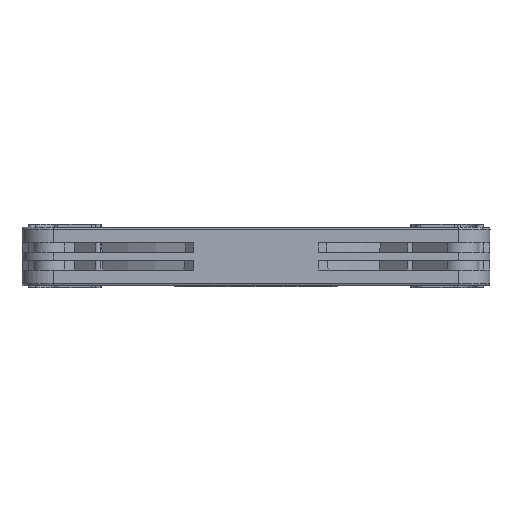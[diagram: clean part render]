
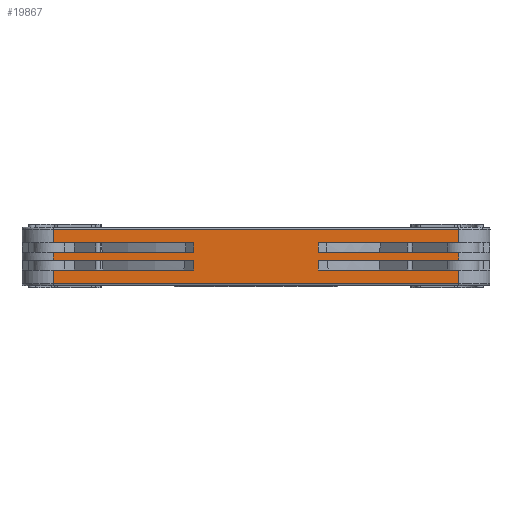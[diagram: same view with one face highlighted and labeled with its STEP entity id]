
A CAD part, left-side view. The second image highlights one B-rep face of the part: STEP entity #19867.
In plain terms, the highlighted planar face has unit normal (-1, 0, 0).
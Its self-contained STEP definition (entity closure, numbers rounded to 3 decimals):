
#4461=ORIENTED_EDGE('',*,*,#9555,.F.);
#4462=ORIENTED_EDGE('',*,*,#9547,.F.);
#4463=ORIENTED_EDGE('',*,*,#9560,.F.);
#4464=ORIENTED_EDGE('',*,*,#9563,.F.);
#4465=ORIENTED_EDGE('',*,*,#9565,.F.);
#4466=ORIENTED_EDGE('',*,*,#9544,.F.);
#4467=ORIENTED_EDGE('',*,*,#9570,.F.);
#4468=ORIENTED_EDGE('',*,*,#10012,.T.);
#4469=ORIENTED_EDGE('',*,*,#10013,.T.);
#4470=ORIENTED_EDGE('',*,*,#10010,.F.);
#4471=ORIENTED_EDGE('',*,*,#10014,.F.);
#4472=ORIENTED_EDGE('',*,*,#9676,.F.);
#4473=ORIENTED_EDGE('',*,*,#9651,.F.);
#4474=ORIENTED_EDGE('',*,*,#9543,.F.);
#4475=ORIENTED_EDGE('',*,*,#9658,.F.);
#4476=ORIENTED_EDGE('',*,*,#9538,.F.);
#4477=ORIENTED_EDGE('',*,*,#9669,.F.);
#4478=ORIENTED_EDGE('',*,*,#9537,.F.);
#4479=ORIENTED_EDGE('',*,*,#9773,.F.);
#4480=ORIENTED_EDGE('',*,*,#9551,.F.);
#9537=EDGE_CURVE('',#12508,#12507,#14134,.T.);
#9538=EDGE_CURVE('',#12509,#12510,#14135,.T.);
#9543=EDGE_CURVE('',#12512,#12511,#14137,.T.);
#9544=EDGE_CURVE('',#12513,#12514,#14138,.T.);
#9547=EDGE_CURVE('',#12515,#12516,#14140,.T.);
#9551=EDGE_CURVE('',#12517,#12518,#14142,.T.);
#9555=EDGE_CURVE('',#12516,#12517,#14143,.T.);
#9560=EDGE_CURVE('',#12519,#12515,#14146,.T.);
#9563=EDGE_CURVE('',#12520,#12519,#14147,.T.);
#9565=EDGE_CURVE('',#12514,#12520,#14148,.T.);
#9570=EDGE_CURVE('',#12521,#12513,#14150,.T.);
#9651=EDGE_CURVE('',#12511,#12569,#14195,.T.);
#9658=EDGE_CURVE('',#12510,#12512,#14199,.T.);
#9669=EDGE_CURVE('',#12507,#12509,#14206,.T.);
#9676=EDGE_CURVE('',#12569,#12579,#14209,.T.);
#9773=EDGE_CURVE('',#12518,#12508,#14250,.T.);
#10010=EDGE_CURVE('',#12774,#12775,#14372,.T.);
#10012=EDGE_CURVE('',#12521,#12776,#14373,.T.);
#10013=EDGE_CURVE('',#12776,#12775,#14374,.T.);
#10014=EDGE_CURVE('',#12579,#12774,#14375,.T.);
#12507=VERTEX_POINT('',#33537);
#12508=VERTEX_POINT('',#33539);
#12509=VERTEX_POINT('',#33543);
#12510=VERTEX_POINT('',#33544);
#12511=VERTEX_POINT('',#33556);
#12512=VERTEX_POINT('',#33564);
#12513=VERTEX_POINT('',#33568);
#12514=VERTEX_POINT('',#33569);
#12515=VERTEX_POINT('',#33577);
#12516=VERTEX_POINT('',#33578);
#12517=VERTEX_POINT('',#33590);
#12518=VERTEX_POINT('',#33592);
#12519=VERTEX_POINT('',#33626);
#12520=VERTEX_POINT('',#33639);
#12521=VERTEX_POINT('',#33663);
#12569=VERTEX_POINT('',#33935);
#12579=VERTEX_POINT('',#34012);
#12774=VERTEX_POINT('',#35149);
#12775=VERTEX_POINT('',#35151);
#12776=VERTEX_POINT('',#35155);
#14134=LINE('',#33540,#15469);
#14135=LINE('',#33542,#15470);
#14137=LINE('',#33565,#15472);
#14138=LINE('',#33567,#15473);
#14140=LINE('',#33576,#15475);
#14142=LINE('',#33591,#15477);
#14143=LINE('',#33607,#15478);
#14146=LINE('',#33627,#15481);
#14147=LINE('',#33640,#15482);
#14148=LINE('',#33647,#15483);
#14150=LINE('',#33664,#15485);
#14195=LINE('',#33934,#15530);
#14199=LINE('',#33958,#15534);
#14206=LINE('',#33988,#15541);
#14209=LINE('',#34011,#15544);
#14250=LINE('',#34361,#15585);
#14372=LINE('',#35150,#15707);
#14373=LINE('',#35154,#15708);
#14374=LINE('',#35156,#15709);
#14375=LINE('',#35157,#15710);
#15469=VECTOR('',#25373,1000.);
#15470=VECTOR('',#25376,1000.);
#15472=VECTOR('',#25380,1000.);
#15473=VECTOR('',#25383,1000.);
#15475=VECTOR('',#25387,1000.);
#15477=VECTOR('',#25391,1000.);
#15478=VECTOR('',#25396,1000.);
#15481=VECTOR('',#25403,1000.);
#15482=VECTOR('',#25406,1000.);
#15483=VECTOR('',#25409,1000.);
#15485=VECTOR('',#25417,1000.);
#15530=VECTOR('',#25514,1000.);
#15534=VECTOR('',#25522,1000.);
#15541=VECTOR('',#25533,1000.);
#15544=VECTOR('',#25544,1000.);
#15585=VECTOR('',#25671,1000.);
#15707=VECTOR('',#26133,1000.);
#15708=VECTOR('',#26138,1000.);
#15709=VECTOR('',#26139,1000.);
#15710=VECTOR('',#26140,1000.);
#16904=EDGE_LOOP('',(#4461,#4462,#4463,#4464,#4465,#4466,#4467,#4468,#4469,
#4470,#4471,#4472,#4473,#4474,#4475,#4476,#4477,#4478,#4479,#4480));
#18161=FACE_BOUND('',#16904,.T.);
#19217=PLANE('',#23399);
#19867=ADVANCED_FACE('',(#18161),#19217,.F.);
#23399=AXIS2_PLACEMENT_3D('',#35153,#26136,#26137);
#25373=DIRECTION('',(0.,0.,-1.));
#25376=DIRECTION('',(0.,0.,-1.));
#25380=DIRECTION('',(0.,0.,-1.));
#25383=DIRECTION('',(0.,0.,1.));
#25387=DIRECTION('',(0.,0.,1.));
#25391=DIRECTION('',(0.,0.,1.));
#25396=DIRECTION('',(0.,1.,0.));
#25403=DIRECTION('',(0.,-1.,0.));
#25406=DIRECTION('',(0.,0.,1.));
#25409=DIRECTION('',(0.,1.,0.));
#25417=DIRECTION('',(0.,-1.,0.));
#25514=DIRECTION('',(0.,1.,0.));
#25522=DIRECTION('',(0.,-1.,0.));
#25533=DIRECTION('',(0.,1.,0.));
#25544=DIRECTION('',(0.,0.,-1.));
#25671=DIRECTION('',(0.,-1.,0.));
#26133=DIRECTION('',(0.,0.,-1.));
#26136=DIRECTION('',(1.,0.,0.));
#26137=DIRECTION('',(0.,1.,0.));
#26138=DIRECTION('',(0.,0.,-1.));
#26139=DIRECTION('',(0.,-1.,0.));
#26140=DIRECTION('',(0.,-1.,0.));
#33537=CARTESIAN_POINT('',(-60.,-51.985,11.));
#33539=CARTESIAN_POINT('',(-60.,-51.985,14.5));
#33540=CARTESIAN_POINT('',(-60.,-51.985,7.5));
#33542=CARTESIAN_POINT('',(-60.,-15.985,7.5));
#33543=CARTESIAN_POINT('',(-60.,-15.985,11.));
#33544=CARTESIAN_POINT('',(-60.,-15.985,8.5));
#33556=CARTESIAN_POINT('',(-60.,-51.985,6.5));
#33564=CARTESIAN_POINT('',(-60.,-51.985,8.5));
#33565=CARTESIAN_POINT('',(-60.,-51.985,7.5));
#33567=CARTESIAN_POINT('',(-60.,16.015,7.5));
#33568=CARTESIAN_POINT('',(-60.,16.015,4.));
#33569=CARTESIAN_POINT('',(-60.,16.015,6.5));
#33576=CARTESIAN_POINT('',(-60.,16.015,7.5));
#33577=CARTESIAN_POINT('',(-60.,16.015,8.5));
#33578=CARTESIAN_POINT('',(-60.,16.015,11.));
#33590=CARTESIAN_POINT('',(-60.,52.015,11.));
#33591=CARTESIAN_POINT('',(-60.,52.015,7.5));
#33592=CARTESIAN_POINT('',(-60.,52.015,14.5));
#33607=CARTESIAN_POINT('',(-60.,0.015,11.));
#33626=CARTESIAN_POINT('',(-60.,52.015,8.5));
#33627=CARTESIAN_POINT('',(-60.,0.015,8.5));
#33639=CARTESIAN_POINT('',(-60.,52.015,6.5));
#33640=CARTESIAN_POINT('',(-60.,52.015,7.5));
#33647=CARTESIAN_POINT('',(-60.,0.015,6.5));
#33663=CARTESIAN_POINT('',(-60.,52.015,4.));
#33664=CARTESIAN_POINT('',(-60.,0.015,4.));
#33934=CARTESIAN_POINT('',(-60.,0.015,6.5));
#33935=CARTESIAN_POINT('',(-60.,-15.985,6.5));
#33958=CARTESIAN_POINT('',(-60.,0.015,8.5));
#33988=CARTESIAN_POINT('',(-60.,0.015,11.));
#34011=CARTESIAN_POINT('',(-60.,-15.985,7.5));
#34012=CARTESIAN_POINT('',(-60.,-15.985,4.));
#34361=CARTESIAN_POINT('',(-60.,0.015,14.5));
#35149=CARTESIAN_POINT('',(-60.,-51.985,4.));
#35150=CARTESIAN_POINT('',(-60.,-51.985,7.5));
#35151=CARTESIAN_POINT('',(-60.,-51.985,0.5));
#35153=CARTESIAN_POINT('',(-60.,-54.065,-0.021));
#35154=CARTESIAN_POINT('',(-60.,52.015,7.5));
#35155=CARTESIAN_POINT('',(-60.,52.015,0.5));
#35156=CARTESIAN_POINT('',(-60.,0.015,0.5));
#35157=CARTESIAN_POINT('',(-60.,-15.985,4.));
